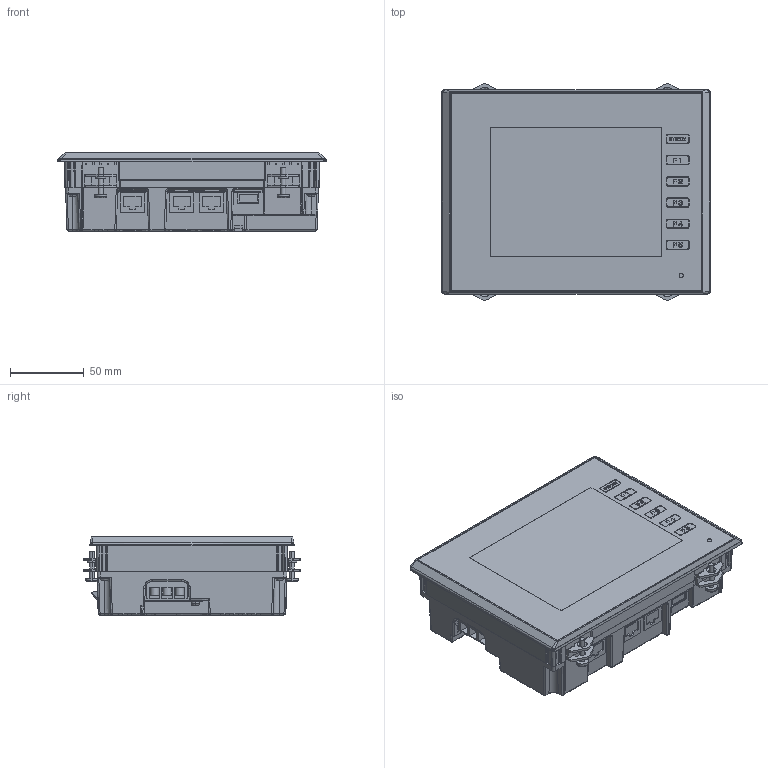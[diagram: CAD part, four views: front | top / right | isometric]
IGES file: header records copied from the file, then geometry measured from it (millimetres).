
Start section:  PTC IGES file: v9060itd_3d-data.igs
Global section: file name: v9060itd_3d-data.igs; native system: Pro/ENGINEER by Parametric Technology Corporation; preprocessor: 2011330; author: ichinose; organization: Unknown; date: 20150330.104154; units: millimetre
Bounding box: 182.5 x 147 x 53 mm (x, y, z)
Surface area: 97169.9 mm2 (no closed solid volume)
Topology: 0 solids, 0 shells, 2981 faces, 16500 edges, 16496 vertices
Faces by surface type: bspline 2505, revolution 474, extrusion 2
